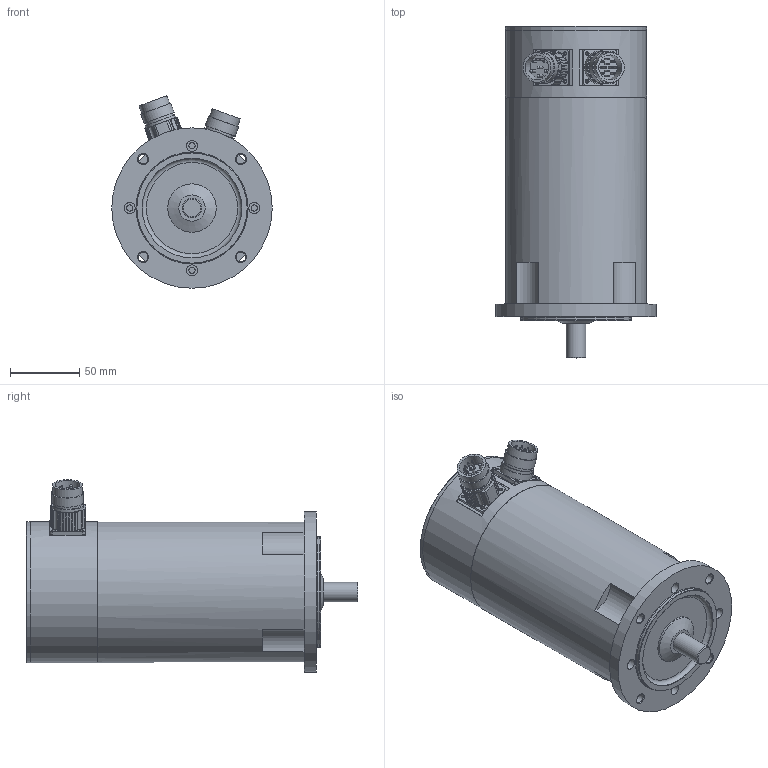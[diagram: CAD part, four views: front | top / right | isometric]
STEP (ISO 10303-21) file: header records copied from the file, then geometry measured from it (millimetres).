
FILE_DESCRIPTION(/* description */ (''),/* implementation_level */ '2;1');
FILE_NAME(/* name */ 'ksy_3612e_r4',/* time_stamp */ '2007-03-19T07:01:42+01:00',/* author */ (''),/* organization */ (''),/* preprocessor_version */ 'ST-DEVELOPER v8',/* originating_system */ 'UNIGRAPHICS SOLUTIONS - UNIGRAPHICS 18.0',/* authorisation */ '');
FILE_SCHEMA (('AUTOMOTIVE_DESIGN { 1 2 10303 214 0 1 1 1 }'));
Length unit declared in the file: millimetre
Products named in the file (10): 014261_0; 014260_0; 06330201_0; DIN3760_org_A15x30x7_0; Rotor_SY 36.. E_0; 064265_0; 113051_0; Gehaeuse_SY 36.. E_0; 113050_0; KSY364_E-R4_0
Assembly tree (9 placements, depth 2):
  KSY364_E-R4_0
    113050_0
    Gehaeuse_SY 36.. E_0
    113051_0
    064265_0
    Rotor_SY 36.. E_0
    DIN3760_org_A15x30x7_0
    06330201_0
    014260_0
    014261_0
Bounding box: 116 x 240 x 139.2 mm (x, y, z)
Volume: 1168980.5 mm3; surface area: 198396.3 mm2
Topology: 9 solids, 9 shells, 399 faces, 1000 edges, 640 vertices
Faces by surface type: cylinder 203, plane 106, cone 54, sphere 20, torus 16
Full cylindrical faces by diameter (mm): 1 x16, 2 x4, 2.135 x8, 2.459 x4, 2.7 x8, 3.013 x3, 3.4 x3, 3.5 x4, 4.5 x8, 6 x7, 7 x4, 8 x8, 10 x1, 13.52 x1, 13.92 x1, 14 x1, 15 x2, 15.3 x1, 18 x2, 20 x4, 21 x2, 21.5 x2, 23 x5, 24 x1, 27 x2, 29 x1, 30 x3, 32 x1, 35 x2, 42 x1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
Entity records: 10537 total; most frequent: DIRECTION 1950, CARTESIAN_POINT 1791, ORIENTED_EDGE 1314, AXIS2_PLACEMENT_3D 904, EDGE_LOOP 729, EDGE_CURVE 657, VERTEX_POINT 545, CIRCLE 495
